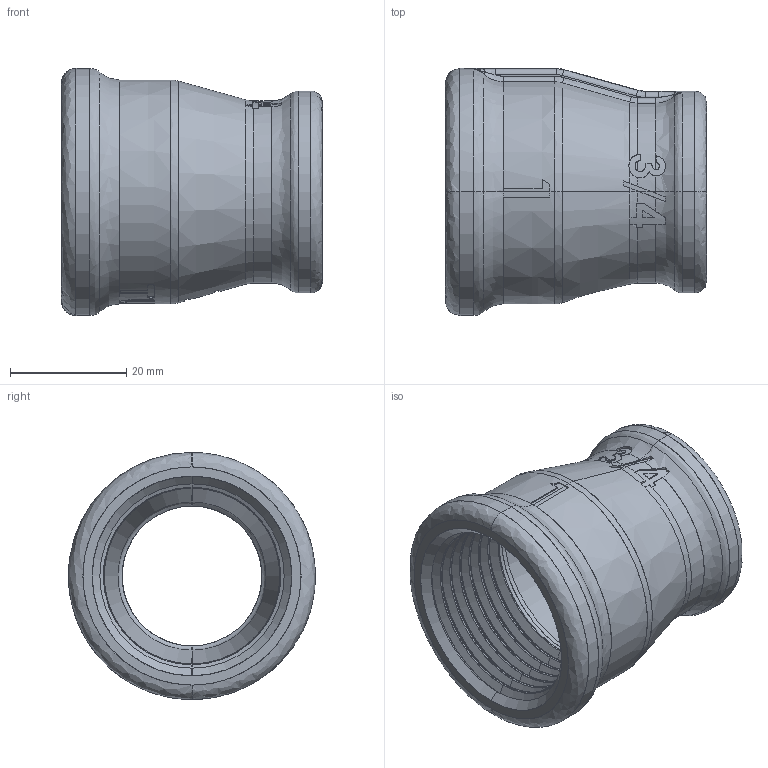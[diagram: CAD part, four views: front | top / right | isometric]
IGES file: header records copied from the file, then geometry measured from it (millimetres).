
Start section: SolidWorks IGES file using analytic representation for surfaces
Global section: file name: C:\Users\Joel Rosa\Desktop\Tubulação\12-32-OK\12-32-033.IGS; native system: SolidWorks 2011; preprocessor: SolidWorks 2011; author: Joel Rosa; date: 121208.224224; units: millimetre
Bounding box: 45 x 42.6 x 42.6 mm (x, y, z)
Surface area: 12165.2 mm2 (no closed solid volume)
Topology: 0 solids, 0 shells, 397 faces, 3324 edges, 3321 vertices
Faces by surface type: bspline 274, revolution 123
